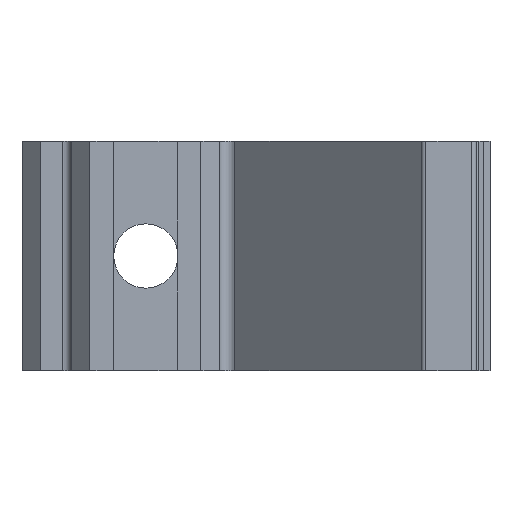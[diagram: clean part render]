
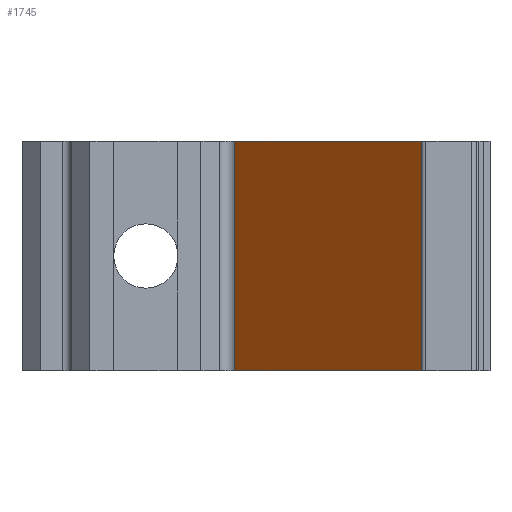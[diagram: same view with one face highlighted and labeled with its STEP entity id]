
A CAD part, front view. The second image highlights one B-rep face of the part: STEP entity #1745.
In plain terms, the highlighted planar face has unit normal (-0.707, -0.707, 0).
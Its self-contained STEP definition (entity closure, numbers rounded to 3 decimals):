
#9 = VECTOR ( 'NONE', #2443, 1000. ) ;
#63 = LINE ( 'NONE', #1077, #1833 ) ;
#114 = CARTESIAN_POINT ( 'NONE',  ( 71.788, 50.219, 25. ) ) ;
#223 = DIRECTION ( 'NONE',  ( 0., 0., -1. ) ) ;
#236 = ORIENTED_EDGE ( 'NONE', *, *, #383, .F. ) ;
#238 = CARTESIAN_POINT ( 'NONE',  ( 71.788, 50.219, 25. ) ) ;
#326 = VECTOR ( 'NONE', #223, 1000. ) ;
#383 = EDGE_CURVE ( 'NONE', #908, #1794, #1335, .T. ) ;
#418 = CARTESIAN_POINT ( 'NONE',  ( 71.788, 50.219, 0. ) ) ;
#429 = ORIENTED_EDGE ( 'NONE', *, *, #2270, .T. ) ;
#488 = CARTESIAN_POINT ( 'NONE',  ( 71.788, 50.219, 25. ) ) ;
#536 = LINE ( 'NONE', #238, #9 ) ;
#563 = FACE_OUTER_BOUND ( 'NONE', #1693, .T. ) ;
#594 = CARTESIAN_POINT ( 'NONE',  ( 51.495, 70.512, 25. ) ) ;
#755 = EDGE_CURVE ( 'NONE', #1794, #956, #536, .T. ) ;
#836 = CARTESIAN_POINT ( 'NONE',  ( 51.495, 70.512, 0. ) ) ;
#908 = VERTEX_POINT ( 'NONE', #2024 ) ;
#956 = VERTEX_POINT ( 'NONE', #418 ) ;
#998 = PLANE ( 'NONE',  #2110 ) ;
#1077 = CARTESIAN_POINT ( 'NONE',  ( 71.788, 50.219, 0. ) ) ;
#1099 = EDGE_CURVE ( 'NONE', #2516, #956, #63, .T. ) ;
#1237 = VECTOR ( 'NONE', #1933, 1000. ) ;
#1335 = LINE ( 'NONE', #114, #1237 ) ;
#1543 = DIRECTION ( 'NONE',  ( 0.707, 0.707, 0. ) ) ;
#1601 = ORIENTED_EDGE ( 'NONE', *, *, #755, .F. ) ;
#1693 = EDGE_LOOP ( 'NONE', ( #2414, #1601, #236, #429 ) ) ;
#1745 = ADVANCED_FACE ( 'NONE', ( #563 ), #998, .F. ) ;
#1794 = VERTEX_POINT ( 'NONE', #2461 ) ;
#1833 = VECTOR ( 'NONE', #2473, 1000. ) ;
#1933 = DIRECTION ( 'NONE',  ( 0.707, -0.707, 0. ) ) ;
#2024 = CARTESIAN_POINT ( 'NONE',  ( 51.495, 70.512, 25. ) ) ;
#2110 = AXIS2_PLACEMENT_3D ( 'NONE', #488, #1543, #2620 ) ;
#2232 = LINE ( 'NONE', #594, #326 ) ;
#2270 = EDGE_CURVE ( 'NONE', #908, #2516, #2232, .T. ) ;
#2414 = ORIENTED_EDGE ( 'NONE', *, *, #1099, .T. ) ;
#2443 = DIRECTION ( 'NONE',  ( 0., 0., -1. ) ) ;
#2461 = CARTESIAN_POINT ( 'NONE',  ( 71.788, 50.219, 25. ) ) ;
#2473 = DIRECTION ( 'NONE',  ( 0.707, -0.707, 0. ) ) ;
#2516 = VERTEX_POINT ( 'NONE', #836 ) ;
#2620 = DIRECTION ( 'NONE',  ( -0.707, 0.707, 0. ) ) ;
